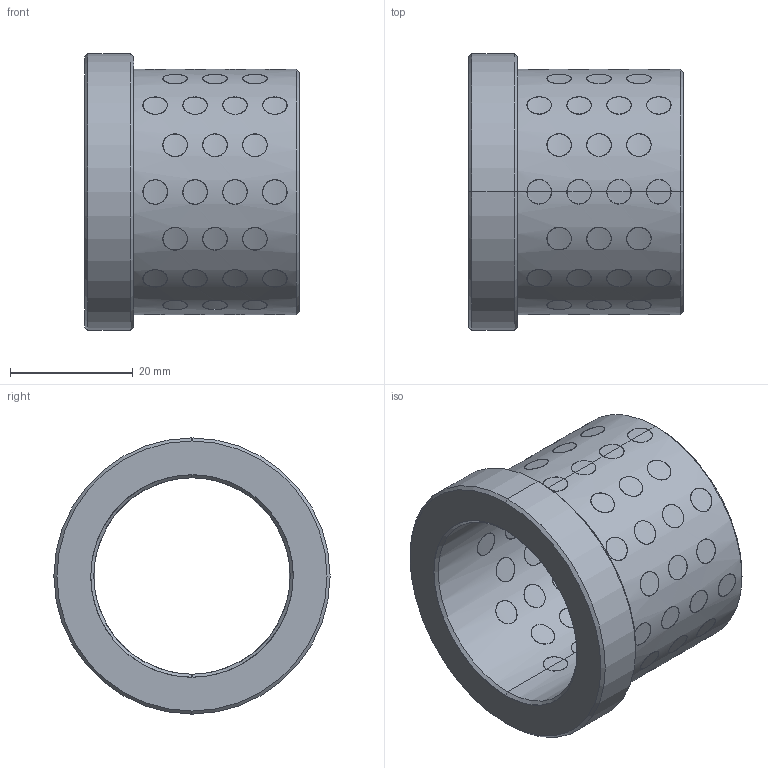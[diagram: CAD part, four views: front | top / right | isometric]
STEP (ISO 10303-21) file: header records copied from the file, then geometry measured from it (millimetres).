
FILE_DESCRIPTION(('CATIA V5 STEP Exchange'),'2;1');
FILE_NAME('C:\Users\Utente\Desktop\3D files G401\G4013235.stp','2020-04-22T08:36:15+00:00',('none'),('none'),'CATIA Version 5 Release 20 GA (IN-10)','CATIA V5 STEP AP203','none');
FILE_SCHEMA(('CONFIG_CONTROL_DESIGN'));
Length unit declared in the file: millimetre
Products named in the file (1): G4013235
Bounding box: 35 x 45 x 45 mm (x, y, z)
Surface area: 15012.9 mm2 (no closed solid volume)
Topology: 0 solids, 371 shells, 371 faces, 1612 edges, 1612 vertices
Faces by surface type: cylinder 358, revolution 10, plane 3
Entity records: 32199 total; most frequent: CARTESIAN_POINT 21005, ORIENTED_EDGE 1612, EDGE_CURVE 1612, VERTEX_POINT 1612, DIRECTION 1313, B_SPLINE_CURVE_WITH_KNOTS 1041, VECTOR 544, LINE 544
